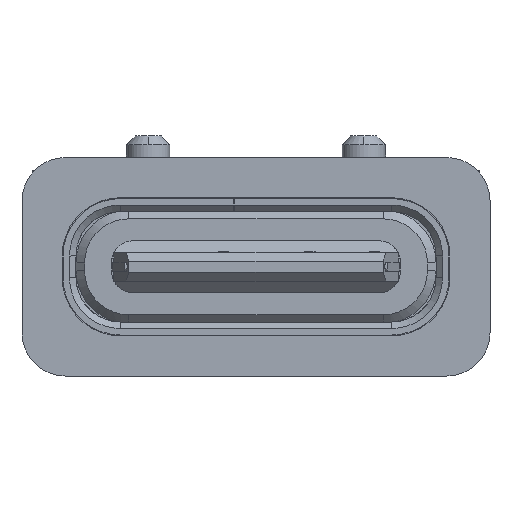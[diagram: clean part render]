
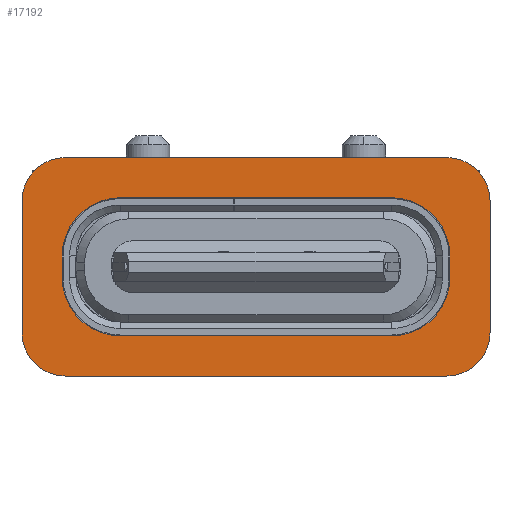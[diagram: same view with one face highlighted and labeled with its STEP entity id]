
A CAD part, front view. The second image highlights one B-rep face of the part: STEP entity #17192.
In plain terms, the highlighted planar face has unit normal (0, -1, 0).
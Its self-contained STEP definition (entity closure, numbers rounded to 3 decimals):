
#546 = DIRECTION ( 'NONE',  ( -1., 0., 0. ) ) ;
#743 = ORIENTED_EDGE ( 'NONE', *, *, #8695, .F. ) ;
#792 = VERTEX_POINT ( 'NONE', #4059 ) ;
#842 = ORIENTED_EDGE ( 'NONE', *, *, #18955, .F. ) ;
#886 = DIRECTION ( 'NONE',  ( -1., 0., 0. ) ) ;
#928 = CARTESIAN_POINT ( 'NONE',  ( 3.14, 0.65, 0.25 ) ) ;
#1082 = DIRECTION ( 'NONE',  ( 0., 1., 0. ) ) ;
#1333 = DIRECTION ( 'NONE',  ( 0., -1., 0. ) ) ;
#1335 = ORIENTED_EDGE ( 'NONE', *, *, #1379, .F. ) ;
#1379 = EDGE_CURVE ( 'NONE', #13714, #9063, #5604, .T. ) ;
#1393 = EDGE_CURVE ( 'NONE', #19092, #18403, #4422, .T. ) ;
#1471 = DIRECTION ( 'NONE',  ( 0., 0., 1. ) ) ;
#1584 = FACE_BOUND ( 'NONE', #16159, .T. ) ;
#1700 = VERTEX_POINT ( 'NONE', #3720 ) ;
#1896 = AXIS2_PLACEMENT_3D ( 'NONE', #12275, #18265, #12468 ) ;
#2067 = ORIENTED_EDGE ( 'NONE', *, *, #18539, .F. ) ;
#2280 = ORIENTED_EDGE ( 'NONE', *, *, #16915, .F. ) ;
#2323 = CARTESIAN_POINT ( 'NONE',  ( -5.42, 0.65, -1.53 ) ) ;
#2326 = EDGE_CURVE ( 'NONE', #12551, #1700, #3821, .T. ) ;
#2416 = ORIENTED_EDGE ( 'NONE', *, *, #13500, .F. ) ;
#2425 = AXIS2_PLACEMENT_3D ( 'NONE', #9494, #13911, #546 ) ;
#2822 = AXIS2_PLACEMENT_3D ( 'NONE', #5909, #7677, #13673 ) ;
#2871 = PLANE ( 'NONE',  #2822 ) ;
#3355 = ORIENTED_EDGE ( 'NONE', *, *, #11623, .F. ) ;
#3466 = ORIENTED_EDGE ( 'NONE', *, *, #14925, .F. ) ;
#3720 = CARTESIAN_POINT ( 'NONE',  ( 4.42, 0.65, -2.53 ) ) ;
#3747 = ORIENTED_EDGE ( 'NONE', *, *, #18763, .F. ) ;
#3803 = AXIS2_PLACEMENT_3D ( 'NONE', #7851, #4806, #13941 ) ;
#3821 = CIRCLE ( 'NONE', #1896, 1. ) ;
#3958 = DIRECTION ( 'NONE',  ( 1., 0., 0. ) ) ;
#4021 = CARTESIAN_POINT ( 'NONE',  ( -5.42, 0.65, 1.53 ) ) ;
#4059 = CARTESIAN_POINT ( 'NONE',  ( -4.49, 0.65, -0.25 ) ) ;
#4275 = CARTESIAN_POINT ( 'NONE',  ( 5.42, 0.65, 1.53 ) ) ;
#4422 = CIRCLE ( 'NONE', #18226, 1. ) ;
#4452 = EDGE_CURVE ( 'NONE', #5210, #19092, #16924, .T. ) ;
#4553 = CARTESIAN_POINT ( 'NONE',  ( 5.42, 0.65, 1.53 ) ) ;
#4568 = DIRECTION ( 'NONE',  ( -1., 0., 0. ) ) ;
#4621 = CARTESIAN_POINT ( 'NONE',  ( -4.49, 0.65, 0.25 ) ) ;
#4632 = CIRCLE ( 'NONE', #2425, 1. ) ;
#4762 = LINE ( 'NONE', #13606, #11010 ) ;
#4806 = DIRECTION ( 'NONE',  ( 0., -1., 0. ) ) ;
#4907 = CARTESIAN_POINT ( 'NONE',  ( 4.42, 0.65, 2.53 ) ) ;
#5210 = VERTEX_POINT ( 'NONE', #11428 ) ;
#5519 = VERTEX_POINT ( 'NONE', #15253 ) ;
#5537 = VERTEX_POINT ( 'NONE', #8167 ) ;
#5596 = CARTESIAN_POINT ( 'NONE',  ( 4.42, 0.65, -2.53 ) ) ;
#5604 = LINE ( 'NONE', #11797, #16984 ) ;
#5909 = CARTESIAN_POINT ( 'NONE',  ( 0., 0.65, 0. ) ) ;
#6068 = DIRECTION ( 'NONE',  ( -1., 0., 0. ) ) ;
#6142 = CIRCLE ( 'NONE', #8025, 1.35 ) ;
#6239 = CARTESIAN_POINT ( 'NONE',  ( -3.14, 0.65, -0.25 ) ) ;
#6920 = DIRECTION ( 'NONE',  ( 1., 0., 0. ) ) ;
#7043 = CARTESIAN_POINT ( 'NONE',  ( 3.14, 0.65, -0.25 ) ) ;
#7080 = DIRECTION ( 'NONE',  ( 0., 0., 1. ) ) ;
#7446 = AXIS2_PLACEMENT_3D ( 'NONE', #6239, #1333, #4568 ) ;
#7677 = DIRECTION ( 'NONE',  ( 0., 1., 0. ) ) ;
#7775 = CIRCLE ( 'NONE', #18750, 1.35 ) ;
#7851 = CARTESIAN_POINT ( 'NONE',  ( -3.14, 0.65, 0.25 ) ) ;
#7946 = CARTESIAN_POINT ( 'NONE',  ( -4.42, 0.65, -2.53 ) ) ;
#8025 = AXIS2_PLACEMENT_3D ( 'NONE', #7043, #13951, #14410 ) ;
#8167 = CARTESIAN_POINT ( 'NONE',  ( 3.14, 0.65, 1.6 ) ) ;
#8186 = DIRECTION ( 'NONE',  ( 0., 1., 0. ) ) ;
#8191 = CARTESIAN_POINT ( 'NONE',  ( -3.14, 0.65, -1.6 ) ) ;
#8597 = DIRECTION ( 'NONE',  ( 0., -1., 0. ) ) ;
#8695 = EDGE_CURVE ( 'NONE', #16224, #10030, #6142, .T. ) ;
#8767 = VERTEX_POINT ( 'NONE', #13858 ) ;
#8783 = EDGE_CURVE ( 'NONE', #9006, #792, #10902, .T. ) ;
#8796 = ORIENTED_EDGE ( 'NONE', *, *, #1393, .F. ) ;
#8836 = CARTESIAN_POINT ( 'NONE',  ( -4.49, 0.65, 0.25 ) ) ;
#8920 = CARTESIAN_POINT ( 'NONE',  ( -3.14, 0.65, 1.6 ) ) ;
#9006 = VERTEX_POINT ( 'NONE', #8836 ) ;
#9063 = VERTEX_POINT ( 'NONE', #4021 ) ;
#9377 = DIRECTION ( 'NONE',  ( 0., 0., 1. ) ) ;
#9494 = CARTESIAN_POINT ( 'NONE',  ( -4.42, 0.65, 1.53 ) ) ;
#9555 = CARTESIAN_POINT ( 'NONE',  ( -4.42, 0.65, 2.53 ) ) ;
#9565 = CARTESIAN_POINT ( 'NONE',  ( 4.49, 0.65, -0.25 ) ) ;
#10030 = VERTEX_POINT ( 'NONE', #9565 ) ;
#10432 = CARTESIAN_POINT ( 'NONE',  ( 3.14, 0.65, -1.6 ) ) ;
#10492 = CARTESIAN_POINT ( 'NONE',  ( 3.14, 0.65, 1.6 ) ) ;
#10902 = LINE ( 'NONE', #4621, #17402 ) ;
#11010 = VECTOR ( 'NONE', #9377, 1000. ) ;
#11136 = LINE ( 'NONE', #8191, #18237 ) ;
#11208 = ORIENTED_EDGE ( 'NONE', *, *, #4452, .F. ) ;
#11335 = CIRCLE ( 'NONE', #3803, 1.35 ) ;
#11428 = CARTESIAN_POINT ( 'NONE',  ( -4.42, 0.65, 2.53 ) ) ;
#11623 = EDGE_CURVE ( 'NONE', #1700, #17728, #18956, .T. ) ;
#11797 = CARTESIAN_POINT ( 'NONE',  ( -5.42, 0.65, -1.53 ) ) ;
#12169 = VECTOR ( 'NONE', #6068, 1000. ) ;
#12220 = LINE ( 'NONE', #4553, #14709 ) ;
#12275 = CARTESIAN_POINT ( 'NONE',  ( 4.42, 0.65, -1.53 ) ) ;
#12376 = DIRECTION ( 'NONE',  ( 0., 0., -1. ) ) ;
#12430 = EDGE_LOOP ( 'NONE', ( #11208, #3466, #1335, #2280, #3355, #13147, #14323, #8796 ) ) ;
#12468 = DIRECTION ( 'NONE',  ( 1., 0., 0. ) ) ;
#12482 = VERTEX_POINT ( 'NONE', #8920 ) ;
#12551 = VERTEX_POINT ( 'NONE', #17261 ) ;
#12779 = EDGE_CURVE ( 'NONE', #792, #8767, #13724, .T. ) ;
#13147 = ORIENTED_EDGE ( 'NONE', *, *, #2326, .F. ) ;
#13274 = CARTESIAN_POINT ( 'NONE',  ( 4.42, 0.65, 1.53 ) ) ;
#13393 = VECTOR ( 'NONE', #886, 1000. ) ;
#13461 = CIRCLE ( 'NONE', #14418, 1. ) ;
#13500 = EDGE_CURVE ( 'NONE', #5537, #12482, #13827, .T. ) ;
#13553 = VECTOR ( 'NONE', #17208, 1000. ) ;
#13606 = CARTESIAN_POINT ( 'NONE',  ( 4.49, 0.65, -0.25 ) ) ;
#13626 = DIRECTION ( 'NONE',  ( 0., 0., -1. ) ) ;
#13673 = DIRECTION ( 'NONE',  ( 1., 0., 0. ) ) ;
#13714 = VERTEX_POINT ( 'NONE', #2323 ) ;
#13724 = CIRCLE ( 'NONE', #7446, 1.35 ) ;
#13827 = LINE ( 'NONE', #10492, #12169 ) ;
#13858 = CARTESIAN_POINT ( 'NONE',  ( -3.14, 0.65, -1.6 ) ) ;
#13911 = DIRECTION ( 'NONE',  ( 0., 1., 0. ) ) ;
#13941 = DIRECTION ( 'NONE',  ( 0., 0., 1. ) ) ;
#13951 = DIRECTION ( 'NONE',  ( 0., -1., 0. ) ) ;
#14323 = ORIENTED_EDGE ( 'NONE', *, *, #15778, .F. ) ;
#14410 = DIRECTION ( 'NONE',  ( 0., 0., -1. ) ) ;
#14418 = AXIS2_PLACEMENT_3D ( 'NONE', #16772, #8186, #13626 ) ;
#14709 = VECTOR ( 'NONE', #19385, 1000. ) ;
#14925 = EDGE_CURVE ( 'NONE', #9063, #5210, #4632, .T. ) ;
#14955 = FACE_OUTER_BOUND ( 'NONE', #12430, .T. ) ;
#15053 = EDGE_CURVE ( 'NONE', #5519, #5537, #7775, .T. ) ;
#15253 = CARTESIAN_POINT ( 'NONE',  ( 4.49, 0.65, 0.25 ) ) ;
#15778 = EDGE_CURVE ( 'NONE', #18403, #12551, #12220, .T. ) ;
#15799 = ORIENTED_EDGE ( 'NONE', *, *, #12779, .F. ) ;
#16159 = EDGE_LOOP ( 'NONE', ( #2416, #16695, #2067, #743, #3747, #15799, #17772, #842 ) ) ;
#16224 = VERTEX_POINT ( 'NONE', #10432 ) ;
#16695 = ORIENTED_EDGE ( 'NONE', *, *, #15053, .F. ) ;
#16772 = CARTESIAN_POINT ( 'NONE',  ( -4.42, 0.65, -1.53 ) ) ;
#16915 = EDGE_CURVE ( 'NONE', #17728, #13714, #13461, .T. ) ;
#16924 = LINE ( 'NONE', #9555, #13553 ) ;
#16984 = VECTOR ( 'NONE', #1471, 1000. ) ;
#17192 = ADVANCED_FACE ( 'NONE', ( #1584, #14955 ), #2871, .F. ) ;
#17208 = DIRECTION ( 'NONE',  ( 1., 0., 0. ) ) ;
#17261 = CARTESIAN_POINT ( 'NONE',  ( 5.42, 0.65, -1.53 ) ) ;
#17402 = VECTOR ( 'NONE', #12376, 1000. ) ;
#17728 = VERTEX_POINT ( 'NONE', #7946 ) ;
#17772 = ORIENTED_EDGE ( 'NONE', *, *, #8783, .F. ) ;
#18226 = AXIS2_PLACEMENT_3D ( 'NONE', #13274, #1082, #7080 ) ;
#18237 = VECTOR ( 'NONE', #3958, 1000. ) ;
#18265 = DIRECTION ( 'NONE',  ( 0., 1., 0. ) ) ;
#18403 = VERTEX_POINT ( 'NONE', #4275 ) ;
#18539 = EDGE_CURVE ( 'NONE', #10030, #5519, #4762, .T. ) ;
#18750 = AXIS2_PLACEMENT_3D ( 'NONE', #928, #8597, #6920 ) ;
#18763 = EDGE_CURVE ( 'NONE', #8767, #16224, #11136, .T. ) ;
#18955 = EDGE_CURVE ( 'NONE', #12482, #9006, #11335, .T. ) ;
#18956 = LINE ( 'NONE', #5596, #13393 ) ;
#19092 = VERTEX_POINT ( 'NONE', #4907 ) ;
#19385 = DIRECTION ( 'NONE',  ( 0., 0., -1. ) ) ;
